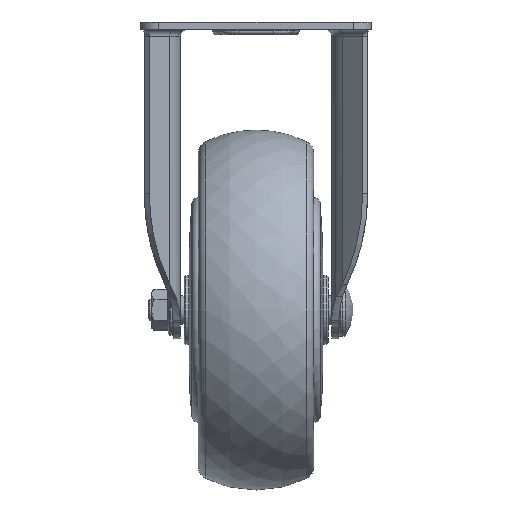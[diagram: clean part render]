
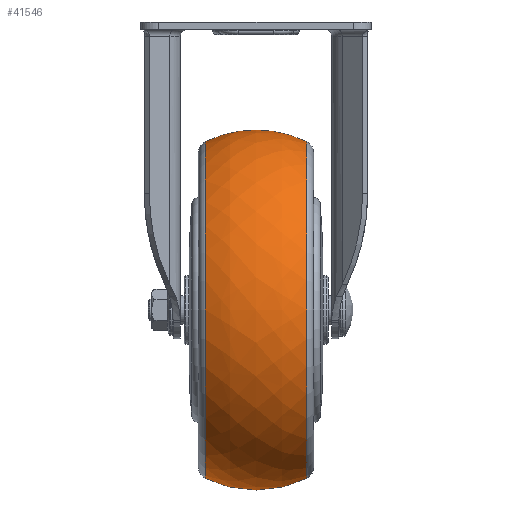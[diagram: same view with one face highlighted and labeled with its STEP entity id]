
A CAD part, left-side view. The second image highlights one B-rep face of the part: STEP entity #41546.
In plain terms, the highlighted free-form (B-spline) face has degree [2, 2] with [3, 9] control points.
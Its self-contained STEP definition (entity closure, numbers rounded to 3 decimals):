
#41454=CARTESIAN_POINT('',(0.0,-14.035,-33.242));
#41455=VERTEX_POINT('',#41454);
#41456=CARTESIAN_POINT('',(0.0,-14.035,-80.0));
#41457=DIRECTION('',(0.0,1.0,0.0));
#41458=DIRECTION('',(0.0,0.0,1.0));
#41459=AXIS2_PLACEMENT_3D('',#41456,#41457,#41458);
#41460=CIRCLE('',#41459,46.758);
#41461=EDGE_CURVE('',#41455,#41455,#41460,.T.);
#41497=CARTESIAN_POINT('',(0.,-14.035,-126.758));
#41498=CARTESIAN_POINT('',(0.,0.,-133.608));
#41499=CARTESIAN_POINT('',(0.,14.035,-126.758));
#41500=CARTESIAN_POINT('',(46.758,-14.035,-126.758));
#41501=CARTESIAN_POINT('',(53.608,0.,-133.608));
#41502=CARTESIAN_POINT('',(46.758,14.035,-126.758));
#41503=CARTESIAN_POINT('',(46.758,-14.035,-80.0));
#41504=CARTESIAN_POINT('',(53.608,0.,-80.0));
#41505=CARTESIAN_POINT('',(46.758,14.035,-80.0));
#41506=CARTESIAN_POINT('',(46.758,-14.035,-33.242));
#41507=CARTESIAN_POINT('',(53.608,0.,-26.392));
#41508=CARTESIAN_POINT('',(46.758,14.035,-33.242));
#41509=CARTESIAN_POINT('',(0.,-14.035,-33.242));
#41510=CARTESIAN_POINT('',(0.,0.,-26.392));
#41511=CARTESIAN_POINT('',(0.,14.035,-33.242));
#41512=CARTESIAN_POINT('',(-46.758,-14.035,-33.242));
#41513=CARTESIAN_POINT('',(-53.608,0.,-26.392));
#41514=CARTESIAN_POINT('',(-46.758,14.035,-33.242));
#41515=CARTESIAN_POINT('',(-46.758,-14.035,-80.0));
#41516=CARTESIAN_POINT('',(-53.608,0.,-80.0));
#41517=CARTESIAN_POINT('',(-46.758,14.035,-80.0));
#41518=CARTESIAN_POINT('',(-46.758,-14.035,-126.758));
#41519=CARTESIAN_POINT('',(-53.608,0.,-133.608));
#41520=CARTESIAN_POINT('',(-46.758,14.035,-126.758));
#41521=CARTESIAN_POINT('',(0.,-14.035,-126.758));
#41522=CARTESIAN_POINT('',(0.,0.,-133.608));
#41523=CARTESIAN_POINT('',(0.,14.035,-126.758));
#41531=(BOUNDED_SURFACE()B_SPLINE_SURFACE(2,2,((#41497,#41500,#41503,#41506,#41509,#41512,#41515,#41518,#41521),(#41498,#41501,#41504,#41507,#41510,#41513,#41516,#41519,#41522),(#41499,#41502,#41505,#41508,#41511,#41514,#41517,#41520,#41523)),.UNSPECIFIED.,.F.,.T.,.U.)B_SPLINE_SURFACE_WITH_KNOTS((3,3),(3,2,2,2,3),(-0.454,0.454),(0.0,1.571,3.142,4.712,6.283),.UNSPECIFIED.)GEOMETRIC_REPRESENTATION_ITEM()RATIONAL_B_SPLINE_SURFACE(((1.0,0.707,1.0,0.707,1.0,0.707,1.0,0.707,1.0),(0.899,0.635,0.899,0.635,0.899,0.635,0.899,0.635,0.899),(1.0,0.707,1.0,0.707,1.0,0.707,1.0,0.707,1.0)))REPRESENTATION_ITEM('')SURFACE());
#41532=ORIENTED_EDGE('',*,*,#41461,.T.);
#41533=EDGE_LOOP('',(#41532));
#41534=FACE_OUTER_BOUND('',#41533,.T.);
#41535=CARTESIAN_POINT('',(0.0,14.035,-33.242));
#41536=VERTEX_POINT('',#41535);
#41537=CARTESIAN_POINT('',(0.0,14.035,-80.0));
#41538=DIRECTION('',(0.0,1.0,0.0));
#41539=DIRECTION('',(0.0,0.0,1.0));
#41540=AXIS2_PLACEMENT_3D('',#41537,#41538,#41539);
#41541=CIRCLE('',#41540,46.758);
#41542=EDGE_CURVE('',#41536,#41536,#41541,.T.);
#41543=ORIENTED_EDGE('',*,*,#41542,.F.);
#41544=EDGE_LOOP('',(#41543));
#41545=FACE_BOUND('',#41544,.T.);
#41546=ADVANCED_FACE('',(#41534,#41545),#41531,.T.);
